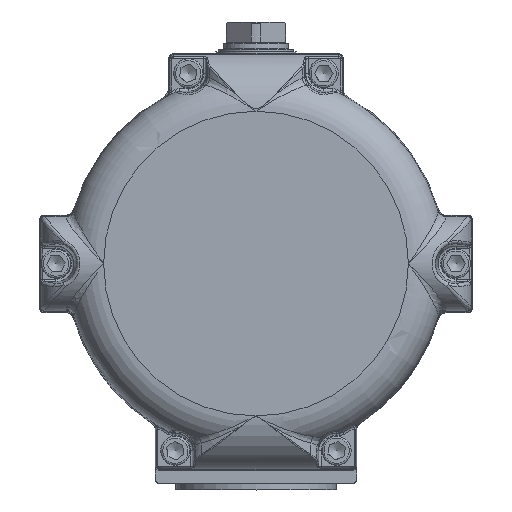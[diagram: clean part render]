
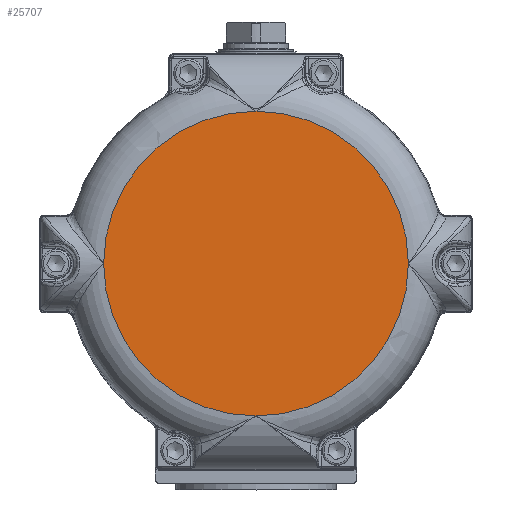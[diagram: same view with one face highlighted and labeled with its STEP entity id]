
A CAD part, top view. The second image highlights one B-rep face of the part: STEP entity #25707.
In plain terms, the highlighted planar face has unit normal (0, 0, 1).
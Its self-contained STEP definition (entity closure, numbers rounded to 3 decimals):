
#1179=PLANE('',#27911);
#2314=FACE_OUTER_BOUND('',#3898,.T.);
#3898=EDGE_LOOP('',(#19808,#19809,#19810,#19811));
#6306=CIRCLE('',#27624,94.454);
#6316=CIRCLE('',#27638,94.454);
#6360=CIRCLE('',#27715,94.454);
#6376=CIRCLE('',#27737,94.454);
#10497=VERTEX_POINT('',#46461);
#10498=VERTEX_POINT('',#46474);
#10510=VERTEX_POINT('',#46679);
#10570=VERTEX_POINT('',#48037);
#13428=EDGE_CURVE('',#10498,#10497,#6306,.T.);
#13450=EDGE_CURVE('',#10510,#10498,#6316,.T.);
#13572=EDGE_CURVE('',#10570,#10510,#6360,.T.);
#13612=EDGE_CURVE('',#10497,#10570,#6376,.T.);
#19808=ORIENTED_EDGE('',*,*,#13572,.T.);
#19809=ORIENTED_EDGE('',*,*,#13450,.T.);
#19810=ORIENTED_EDGE('',*,*,#13428,.T.);
#19811=ORIENTED_EDGE('',*,*,#13612,.T.);
#25707=ADVANCED_FACE('',(#2314),#1179,.T.);
#27624=AXIS2_PLACEMENT_3D('',#46475,#31972,#31973);
#27638=AXIS2_PLACEMENT_3D('',#46680,#32001,#32002);
#27715=AXIS2_PLACEMENT_3D('',#48038,#32173,#32174);
#27737=AXIS2_PLACEMENT_3D('',#48290,#32218,#32219);
#27911=AXIS2_PLACEMENT_3D('',#52390,#32633,#32634);
#31972=DIRECTION('center_axis',(0.,0.,
1.));
#31973=DIRECTION('ref_axis',(-1.,0.,0.));
#32001=DIRECTION('center_axis',(0.,0.,
1.));
#32002=DIRECTION('ref_axis',(-1.,0.,0.));
#32173=DIRECTION('center_axis',(0.,0.,
1.));
#32174=DIRECTION('ref_axis',(-1.,0.,0.));
#32218=DIRECTION('center_axis',(0.,0.,
1.));
#32219=DIRECTION('ref_axis',(-1.,0.,0.));
#32633=DIRECTION('center_axis',(0.,0.,
1.));
#32634=DIRECTION('ref_axis',(0.,-1.,0.));
#46461=CARTESIAN_POINT('',(-94.454,0.,149.));
#46474=CARTESIAN_POINT('',(0.,94.454,149.));
#46475=CARTESIAN_POINT('Origin',(0.,0.,
149.));
#46679=CARTESIAN_POINT('',(94.454,0.,149.));
#46680=CARTESIAN_POINT('Origin',(0.,0.,
149.));
#48037=CARTESIAN_POINT('',(0.,-94.454,149.));
#48038=CARTESIAN_POINT('Origin',(0.,0.,
149.));
#48290=CARTESIAN_POINT('Origin',(0.,0.,
149.));
#52390=CARTESIAN_POINT('Origin',(-47.227,0.,
149.));
